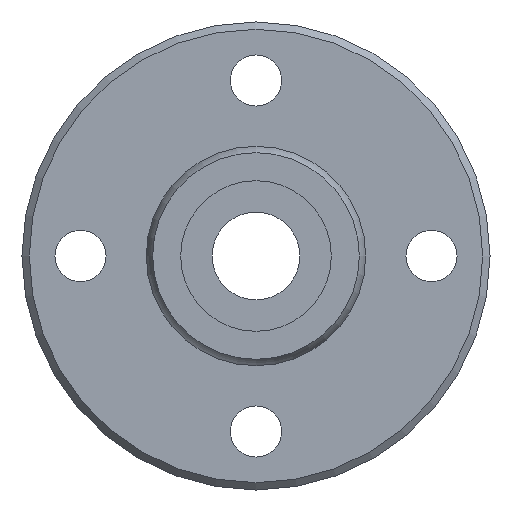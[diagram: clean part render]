
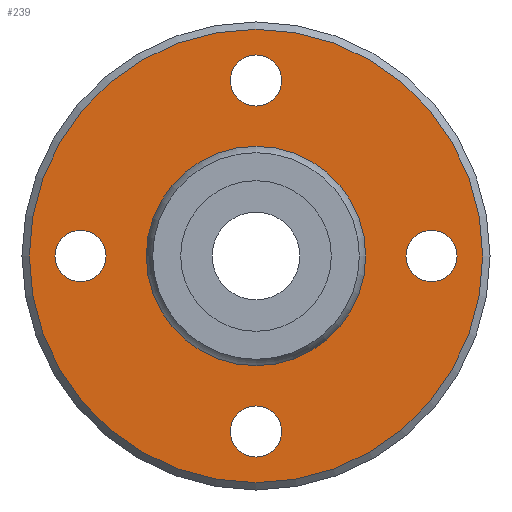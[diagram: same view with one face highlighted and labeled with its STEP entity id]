
A CAD part, left-side view. The second image highlights one B-rep face of the part: STEP entity #239.
In plain terms, the highlighted planar face has unit normal (-1, 0, 0).
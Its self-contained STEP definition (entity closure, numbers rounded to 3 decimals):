
#164=CARTESIAN_POINT('',(17.0,0.,15.5));
#165=VERTEX_POINT('',#164);
#166=CARTESIAN_POINT('',(17.0,0.0,0.0));
#167=DIRECTION('',(1.0,0.0,0.0));
#168=DIRECTION('',(0.0,0.0,-1.0));
#169=AXIS2_PLACEMENT_3D('',#166,#167,#168);
#170=CIRCLE('',#169,15.5);
#171=EDGE_CURVE('',#165,#165,#170,.T.);
#176=CARTESIAN_POINT('',(17.0,0.0,11.655));
#177=DIRECTION('',(-1.0,0.0,0.0));
#178=DIRECTION('',(0.0,0.0,1.0));
#179=AXIS2_PLACEMENT_3D('',#176,#177,#178);
#180=PLANE('',#179);
#181=ORIENTED_EDGE('',*,*,#171,.F.);
#182=EDGE_LOOP('',(#181));
#183=FACE_OUTER_BOUND('',#182,.T.);
#184=CARTESIAN_POINT('',(17.0,0.0,7.309));
#185=VERTEX_POINT('',#184);
#186=CARTESIAN_POINT('',(17.0,0.0,0.0));
#187=DIRECTION('',(-1.0,0.0,0.0));
#188=DIRECTION('',(0.0,0.0,1.0));
#189=AXIS2_PLACEMENT_3D('',#186,#187,#188);
#190=CIRCLE('',#189,7.309);
#191=EDGE_CURVE('',#185,#185,#190,.T.);
#192=ORIENTED_EDGE('',*,*,#191,.F.);
#193=EDGE_LOOP('',(#192));
#194=FACE_BOUND('',#193,.T.);
#195=CARTESIAN_POINT('',(17.0,-13.75,0.));
#196=VERTEX_POINT('',#195);
#197=CARTESIAN_POINT('',(17.0,-12.,0.));
#198=DIRECTION('',(1.0,0.0,0.0));
#199=DIRECTION('',(0.0,1.0,0.0));
#200=AXIS2_PLACEMENT_3D('',#197,#198,#199);
#201=CIRCLE('',#200,1.75);
#202=EDGE_CURVE('',#196,#196,#201,.T.);
#203=ORIENTED_EDGE('',*,*,#202,.T.);
#204=EDGE_LOOP('',(#203));
#205=FACE_BOUND('',#204,.T.);
#206=CARTESIAN_POINT('',(17.0,10.25,0.));
#207=VERTEX_POINT('',#206);
#208=CARTESIAN_POINT('',(17.0,12.,0.));
#209=DIRECTION('',(1.0,0.0,0.0));
#210=DIRECTION('',(0.0,1.0,0.0));
#211=AXIS2_PLACEMENT_3D('',#208,#209,#210);
#212=CIRCLE('',#211,1.75);
#213=EDGE_CURVE('',#207,#207,#212,.T.);
#214=ORIENTED_EDGE('',*,*,#213,.T.);
#215=EDGE_LOOP('',(#214));
#216=FACE_BOUND('',#215,.T.);
#217=CARTESIAN_POINT('',(17.0,-1.75,12.));
#218=VERTEX_POINT('',#217);
#219=CARTESIAN_POINT('',(17.0,0.,12.));
#220=DIRECTION('',(1.0,0.0,0.0));
#221=DIRECTION('',(0.0,1.0,0.0));
#222=AXIS2_PLACEMENT_3D('',#219,#220,#221);
#223=CIRCLE('',#222,1.75);
#224=EDGE_CURVE('',#218,#218,#223,.T.);
#225=ORIENTED_EDGE('',*,*,#224,.T.);
#226=EDGE_LOOP('',(#225));
#227=FACE_BOUND('',#226,.T.);
#228=CARTESIAN_POINT('',(17.0,-1.75,-12.));
#229=VERTEX_POINT('',#228);
#230=CARTESIAN_POINT('',(17.0,0.,-12.));
#231=DIRECTION('',(1.0,0.0,0.0));
#232=DIRECTION('',(0.0,1.0,0.0));
#233=AXIS2_PLACEMENT_3D('',#230,#231,#232);
#234=CIRCLE('',#233,1.75);
#235=EDGE_CURVE('',#229,#229,#234,.T.);
#236=ORIENTED_EDGE('',*,*,#235,.T.);
#237=EDGE_LOOP('',(#236));
#238=FACE_BOUND('',#237,.T.);
#239=ADVANCED_FACE('',(#183,#194,#205,#216,#227,#238),#180,.T.);
